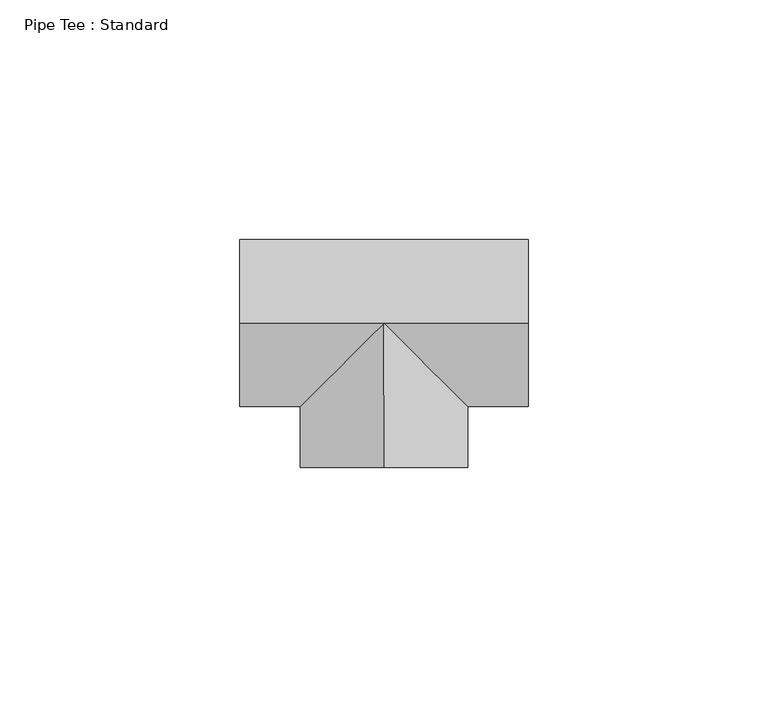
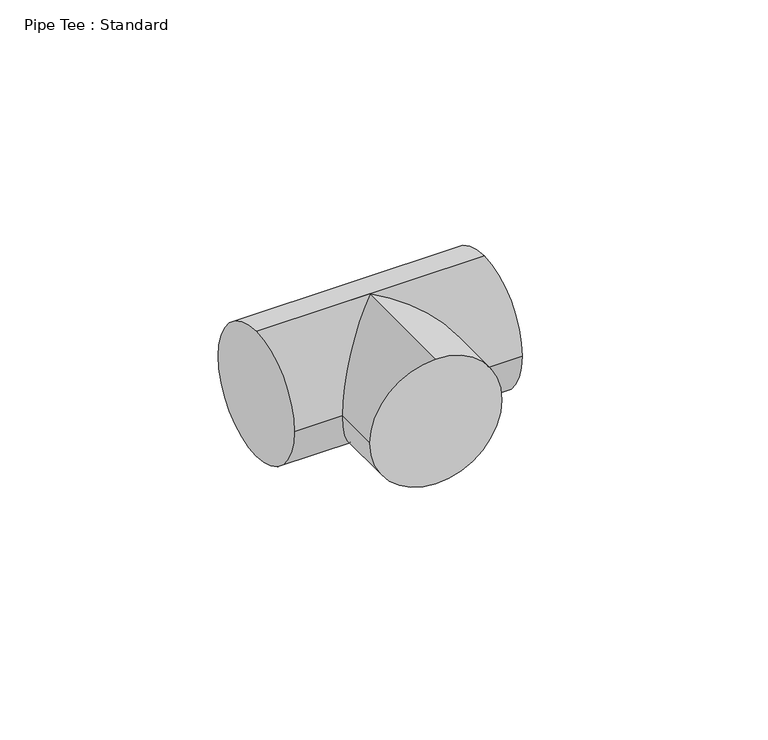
"""IFC4 building model written with IfcOpenShell, lengths in millimetres: pipe fitting geometry, Pipe Tee : Standard."""

from ifc_helpers import new_model, si_unit, frame, origin, place, context, project, spatial, circle_curve, ellipse_curve, source, transform, mapped, element, save
from ifc_brep_helpers import plane_surface, cylinder_surface, advanced_brep


def pipe_tee_standard_feafe2f1(model_context):
    return source(origin(), model_context, "Body", "AdvancedBrep", [
        advanced_brep(
        [(-30.1625, 0.0, 17.4625), (-30.1625, 17.4625, 0.0), (-30.1625, 0.0, -17.4625), (-30.1625, -17.4625, 0.0), (30.1625, 0.0, 17.4625), (30.1625, -17.4625, 0.0), (30.1625, 0.0, -17.4625), (30.1625, 17.4625, 0.0), (0.0, 0.0, 17.4625), (0.0, 0.0, -17.4625), (-17.4625, -17.4625, 0.0), (17.4625, -17.4625, 0.0), (0.0, -30.1625, 17.4625), (-17.4625, -30.1625, 0.0), (0.0, -30.1625, -17.4625), (17.4625, -30.1625, 0.0)],
        [
            (0, 1, circle_curve(frame((-30.1625, 0.0, 0.0), z_axis=(-1.0, 0.0, 0.0), x_axis=(0.0, 1.0, 0.0)), 17.4625)),
            (1, 2, circle_curve(frame((-30.1625, 0.0, 0.0), z_axis=(-1.0, 0.0, 0.0), x_axis=(0.0, 1.0, 0.0)), 17.4625)),
            (2, 3, circle_curve(frame((-30.1625, 0.0, 0.0), z_axis=(-1.0, 0.0, 0.0), x_axis=(0.0, 1.0, 0.0)), 17.4625)),
            (3, 0, circle_curve(frame((-30.1625, 0.0, 0.0), z_axis=(-1.0, 0.0, 0.0), x_axis=(0.0, 1.0, 0.0)), 17.4625)),
            (4, 5, circle_curve(frame((30.1625, 0.0, 0.0), z_axis=(1.0, 0.0, 0.0), x_axis=(0.0, 1.0, 0.0)), 17.4625)),
            (5, 6, circle_curve(frame((30.1625, 0.0, 0.0), z_axis=(1.0, 0.0, 0.0), x_axis=(0.0, 1.0, 0.0)), 17.4625)),
            (6, 7, circle_curve(frame((30.1625, 0.0, 0.0), z_axis=(1.0, 0.0, 0.0), x_axis=(0.0, 1.0, 0.0)), 17.4625)),
            (7, 4, circle_curve(frame((30.1625, 0.0, 0.0), z_axis=(1.0, 0.0, 0.0), x_axis=(0.0, 1.0, 0.0)), 17.4625)),
            (0, 8),
            (8, 4),
            (7, 1),
            (6, 9),
            (9, 2),
            (9, 10, ellipse_curve(frame((0.0, 0.0, 0.0), z_axis=(-0.707106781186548, 0.7071067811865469, 0.0), x_axis=(-0.7071067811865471, -0.7071067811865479, 0.0)), 24.6957043, 17.4625)),
            (10, 3),
            (5, 11),
            (11, 9, ellipse_curve(frame((0.0, 0.0, 0.0), z_axis=(0.7071067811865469, 0.7071067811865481, 0.0), x_axis=(-0.7071067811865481, 0.7071067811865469, 0.0)), 24.6957043, 17.4625)),
            (10, 8, ellipse_curve(frame((0.0, 0.0, 0.0), z_axis=(-0.707106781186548, 0.7071067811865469, 0.0), x_axis=(-0.7071067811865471, -0.7071067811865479, 0.0)), 24.6957043, 17.4625)),
            (8, 11, ellipse_curve(frame((0.0, 0.0, 0.0), z_axis=(0.7071067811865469, 0.7071067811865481, 0.0), x_axis=(-0.7071067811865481, 0.7071067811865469, 0.0)), 24.6957043, 17.4625)),
            (12, 13, circle_curve(frame((0.0, -30.1625, 0.0), z_axis=(0.0, -1.0, 0.0), x_axis=(1.0, 0.0, 0.0)), 17.4625)),
            (13, 14, circle_curve(frame((0.0, -30.1625, 0.0), z_axis=(0.0, -1.0, 0.0), x_axis=(1.0, 0.0, 0.0)), 17.4625)),
            (14, 15, circle_curve(frame((0.0, -30.1625, 0.0), z_axis=(0.0, -1.0, 0.0), x_axis=(1.0, 0.0, 0.0)), 17.4625)),
            (15, 12, circle_curve(frame((0.0, -30.1625, 0.0), z_axis=(0.0, -1.0, 0.0), x_axis=(1.0, 0.0, 0.0)), 17.4625)),
            (15, 11),
            (8, 12),
            (14, 9),
            (13, 10),
        ],
        [
            plane_surface(frame((-30.1625, 0.0, 0.0), z_axis=(-1.0, 0.0, 0.0), x_axis=(0.0, 0.0, 1.0))),
            plane_surface(frame((30.1625, 0.0, 0.0), z_axis=(1.0, 0.0, 0.0), x_axis=(0.0, 0.0, 1.0))),
            cylinder_surface(frame((-30.1625, 0.0, 0.0), z_axis=(-1.0, 0.0, 0.0), x_axis=(0.0, 1.0, 0.0)), 17.4625),
            plane_surface(frame((0.0, -30.1625, 0.0), z_axis=(0.0, -1.0, 0.0), x_axis=(0.0, 0.0, 1.0))),
            cylinder_surface(frame((0.0, 0.0, 0.0), z_axis=(0.0, 1.0, 0.0), x_axis=(1.0, 0.0, 0.0)), 17.4625),
        ],
        [
            (0, [[1, 2, 3, 4]]),
            (1, [[5, 6, 7, 8]]),
            (2, [[-1, 9, 10, -8, 11]]),
            (2, [[-2, -11, -7, 12, 13]]),
            (2, [[-3, -13, 14, 15]]),
            (2, [[-6, 16, 17, -12]]),
            (2, [[-4, -15, 18, -9]]),
            (2, [[-5, -10, 19, -16]]),
            (3, [[20, 21, 22, 23]]),
            (4, [[-23, 24, -19, 25]]),
            (4, [[-22, 26, -17, -24]]),
            (4, [[-21, 27, -14, -26]]),
            (4, [[-20, -25, -18, -27]]),
        ],
    ),
        advanced_brep(
        [(-30.1625, 0.0, 17.4625), (-30.1625, 17.4625, 0.0), (-30.1625, 0.0, -17.4625), (-30.1625, -17.4625, 0.0), (30.1625, 0.0, 17.4625), (30.1625, -17.4625, 0.0), (30.1625, 0.0, -17.4625), (30.1625, 17.4625, 0.0), (0.0, 0.0, 17.4625), (0.0, 0.0, -17.4625), (-17.4625, -17.4625, 0.0), (17.4625, -17.4625, 0.0), (0.0, -30.1625, 17.4625), (-17.4625, -30.1625, 0.0), (0.0, -30.1625, -17.4625), (17.4625, -30.1625, 0.0)],
        [
            (0, 1, circle_curve(frame((-30.1625, 0.0, 0.0), z_axis=(-1.0, 0.0, 0.0), x_axis=(0.0, 1.0, 0.0)), 17.4625)),
            (1, 2, circle_curve(frame((-30.1625, 0.0, 0.0), z_axis=(-1.0, 0.0, 0.0), x_axis=(0.0, 1.0, 0.0)), 17.4625)),
            (2, 3, circle_curve(frame((-30.1625, 0.0, 0.0), z_axis=(-1.0, 0.0, 0.0), x_axis=(0.0, 1.0, 0.0)), 17.4625)),
            (3, 0, circle_curve(frame((-30.1625, 0.0, 0.0), z_axis=(-1.0, 0.0, 0.0), x_axis=(0.0, 1.0, 0.0)), 17.4625)),
            (4, 5, circle_curve(frame((30.1625, 0.0, 0.0), z_axis=(1.0, 0.0, 0.0), x_axis=(0.0, 1.0, 0.0)), 17.4625)),
            (5, 6, circle_curve(frame((30.1625, 0.0, 0.0), z_axis=(1.0, 0.0, 0.0), x_axis=(0.0, 1.0, 0.0)), 17.4625)),
            (6, 7, circle_curve(frame((30.1625, 0.0, 0.0), z_axis=(1.0, 0.0, 0.0), x_axis=(0.0, 1.0, 0.0)), 17.4625)),
            (7, 4, circle_curve(frame((30.1625, 0.0, 0.0), z_axis=(1.0, 0.0, 0.0), x_axis=(0.0, 1.0, 0.0)), 17.4625)),
            (0, 8),
            (8, 4),
            (7, 1),
            (6, 9),
            (9, 2),
            (9, 10, ellipse_curve(frame((0.0, 0.0, 0.0), z_axis=(-0.707106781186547, 0.7071067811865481, 0.0), x_axis=(-0.707106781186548, -0.707106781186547, 0.0)), 24.6957043, 17.4625)),
            (10, 3),
            (5, 11),
            (11, 9, ellipse_curve(frame((0.0, 0.0, 0.0), z_axis=(0.707106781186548, 0.7071067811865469, 0.0), x_axis=(-0.707106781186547, 0.707106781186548, 0.0)), 24.6957043, 17.4625)),
            (10, 8, ellipse_curve(frame((0.0, 0.0, 0.0), z_axis=(-0.707106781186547, 0.7071067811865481, 0.0), x_axis=(-0.707106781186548, -0.707106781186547, 0.0)), 24.6957043, 17.4625)),
            (8, 11, ellipse_curve(frame((0.0, 0.0, 0.0), z_axis=(0.707106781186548, 0.7071067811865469, 0.0), x_axis=(-0.707106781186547, 0.707106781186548, 0.0)), 24.6957043, 17.4625)),
            (12, 13, circle_curve(frame((0.0, -30.1625, 0.0), z_axis=(0.0, -1.0, 0.0), x_axis=(1.0, 0.0, 0.0)), 17.4625)),
            (13, 14, circle_curve(frame((0.0, -30.1625, 0.0), z_axis=(0.0, -1.0, 0.0), x_axis=(1.0, 0.0, 0.0)), 17.4625)),
            (14, 15, circle_curve(frame((0.0, -30.1625, 0.0), z_axis=(0.0, -1.0, 0.0), x_axis=(1.0, 0.0, 0.0)), 17.4625)),
            (15, 12, circle_curve(frame((0.0, -30.1625, 0.0), z_axis=(0.0, -1.0, 0.0), x_axis=(1.0, 0.0, 0.0)), 17.4625)),
            (15, 11),
            (8, 12),
            (14, 9),
            (13, 10),
        ],
        [
            plane_surface(frame((-30.1625, 0.0, 0.0), z_axis=(-1.0, 0.0, 0.0), x_axis=(0.0, 0.0, 1.0))),
            plane_surface(frame((30.1625, 0.0, 0.0), z_axis=(1.0, 0.0, 0.0), x_axis=(0.0, 0.0, 1.0))),
            cylinder_surface(frame((-30.1625, 0.0, 0.0), z_axis=(-1.0, 0.0, 0.0), x_axis=(0.0, 1.0, 0.0)), 17.4625),
            plane_surface(frame((0.0, -30.1625, 0.0), z_axis=(0.0, -1.0, 0.0), x_axis=(0.0, 0.0, 1.0))),
            cylinder_surface(frame((0.0, 0.0, 0.0), z_axis=(0.0, 1.0, 0.0), x_axis=(1.0, 0.0, 0.0)), 17.4625),
        ],
        [
            (0, [[1, 2, 3, 4]]),
            (1, [[5, 6, 7, 8]]),
            (2, [[-1, 9, 10, -8, 11]]),
            (2, [[-2, -11, -7, 12, 13]]),
            (2, [[-3, -13, 14, 15]]),
            (2, [[-6, 16, 17, -12]]),
            (2, [[-4, -15, 18, -9]]),
            (2, [[-5, -10, 19, -16]]),
            (3, [[20, 21, 22, 23]]),
            (4, [[-23, 24, -19, 25]]),
            (4, [[-22, 26, -17, -24]]),
            (4, [[-21, 27, -14, -26]]),
            (4, [[-20, -25, -18, -27]]),
        ],
    ),
    ])


if __name__ == "__main__":
    model = new_model("IFC4")
    model_context = context("Model", 3, world=origin())
    ifc_project = project(units=[si_unit("LENGTHUNIT", "METRE", prefix="MILLI")], contexts=[model_context])
    site = spatial("IfcSite", under=ifc_project)
    building = spatial("IfcBuilding", under=site)
    placement = place(None, origin())
    pipe_tee_standard_shape = pipe_tee_standard_feafe2f1(model_context)
    element("IfcPipeFitting", 1, ObjectType="Pipe Tee : Standard", at=placement, inside=building, context=model_context, shape_type="MappedRepresentation", body=[
        mapped(pipe_tee_standard_shape, transform((0.0, 0.0, 0.0), x_axis=(1.0, 0.0, 0.0), y_axis=(0.0, 1.0, 0.0), z_axis=(0.0, 0.0, 1.0))),
    ])
    save(model, "model.ifc")
